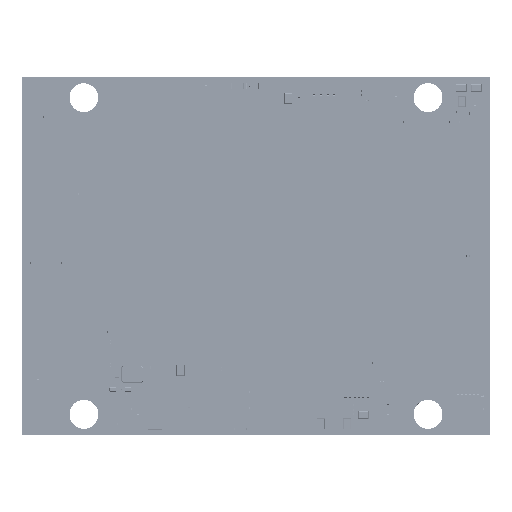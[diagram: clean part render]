
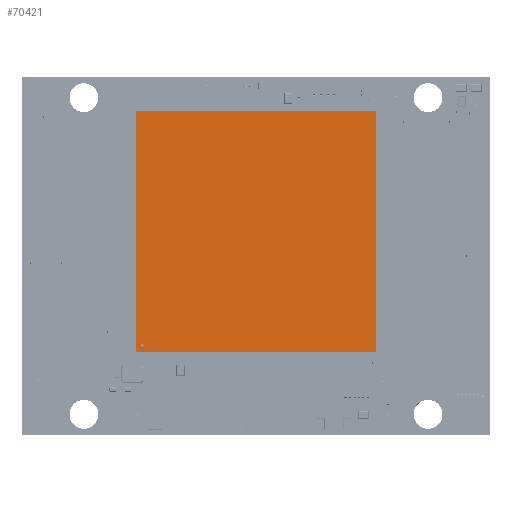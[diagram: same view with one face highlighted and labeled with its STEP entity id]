
A CAD part, top view. The second image highlights one B-rep face of the part: STEP entity #70421.
In plain terms, the highlighted planar face has unit normal (0, 0, 1).
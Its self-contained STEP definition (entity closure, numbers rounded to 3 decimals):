
#70292 = VERTEX_POINT('',#70293);
#70293 = CARTESIAN_POINT('',(-17.5,-17.5,3.51));
#70299 = EDGE_CURVE('',#70292,#70300,#70302,.T.);
#70300 = VERTEX_POINT('',#70301);
#70301 = CARTESIAN_POINT('',(17.5,-17.5,3.51));
#70302 = LINE('',#70303,#70304);
#70303 = CARTESIAN_POINT('',(-17.5,-17.5,3.51));
#70304 = VECTOR('',#70305,1.);
#70305 = DIRECTION('',(1.,0.,0.));
#70330 = EDGE_CURVE('',#70300,#70331,#70333,.T.);
#70331 = VERTEX_POINT('',#70332);
#70332 = CARTESIAN_POINT('',(17.5,17.5,3.51));
#70333 = LINE('',#70334,#70335);
#70334 = CARTESIAN_POINT('',(17.5,-17.5,3.51));
#70335 = VECTOR('',#70336,1.);
#70336 = DIRECTION('',(0.,1.,0.));
#70361 = EDGE_CURVE('',#70331,#70362,#70364,.T.);
#70362 = VERTEX_POINT('',#70363);
#70363 = CARTESIAN_POINT('',(-17.5,17.5,3.51));
#70364 = LINE('',#70365,#70366);
#70365 = CARTESIAN_POINT('',(17.5,17.5,3.51));
#70366 = VECTOR('',#70367,1.);
#70367 = DIRECTION('',(-1.,0.,0.));
#70392 = EDGE_CURVE('',#70362,#70292,#70393,.T.);
#70393 = LINE('',#70394,#70395);
#70394 = CARTESIAN_POINT('',(-17.5,17.5,3.51));
#70395 = VECTOR('',#70396,1.);
#70396 = DIRECTION('',(0.,-1.,0.));
#70421 = ADVANCED_FACE('',(#70422),#70428,.T.);
#70422 = FACE_BOUND('',#70423,.T.);
#70423 = EDGE_LOOP('',(#70424,#70425,#70426,#70427));
#70424 = ORIENTED_EDGE('',*,*,#70299,.T.);
#70425 = ORIENTED_EDGE('',*,*,#70330,.T.);
#70426 = ORIENTED_EDGE('',*,*,#70361,.T.);
#70427 = ORIENTED_EDGE('',*,*,#70392,.T.);
#70428 = PLANE('',#70429);
#70429 = AXIS2_PLACEMENT_3D('',#70430,#70431,#70432);
#70430 = CARTESIAN_POINT('',(0.,0.,
    3.51));
#70431 = DIRECTION('',(0.,0.,1.));
#70432 = DIRECTION('',(1.,0.,-0.));
